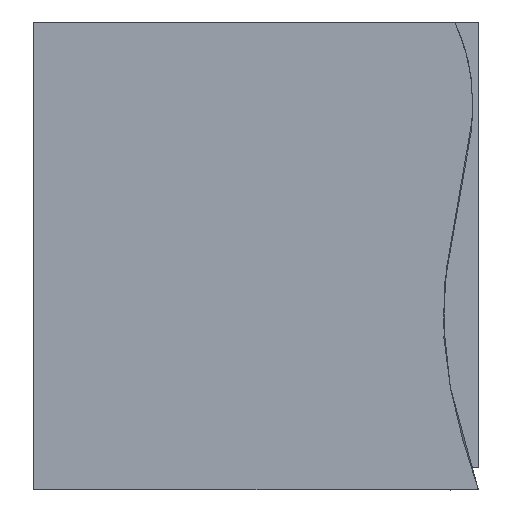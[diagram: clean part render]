
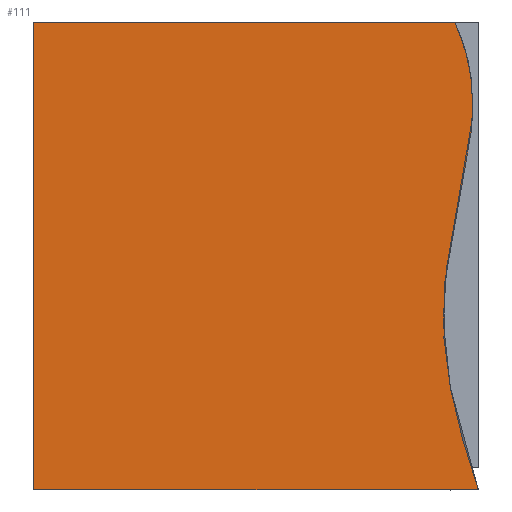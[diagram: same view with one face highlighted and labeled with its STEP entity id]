
A CAD part, front view. The second image highlights one B-rep face of the part: STEP entity #111.
In plain terms, the highlighted planar face has unit normal (0, 1, 0).
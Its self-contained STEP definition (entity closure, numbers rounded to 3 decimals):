
#12 = VECTOR ( 'NONE', #222, 1000. ) ;
#17 = CARTESIAN_POINT ( 'NONE',  ( 0., -100., 0. ) ) ;
#47 = CARTESIAN_POINT ( 'NONE',  ( 99.212, -100., -19.458 ) ) ;
#48 = EDGE_CURVE ( 'NONE', #119, #209, #252, .T. ) ;
#53 = CARTESIAN_POINT ( 'NONE',  ( 0., -100., 0. ) ) ;
#63 = EDGE_CURVE ( 'NONE', #209, #156, #67, .T. ) ;
#67 = B_SPLINE_CURVE_WITH_KNOTS ( 'NONE', 3,
 ( #132, #47, #104, #276, #201 ),
 .UNSPECIFIED., .F., .F.,
 ( 4, 1, 4 ),
 ( 0., 0.578, 1. ),
 .UNSPECIFIED. ) ;
#77 = DIRECTION ( 'NONE',  ( 0., 0., 1. ) ) ;
#88 = ORIENTED_EDGE ( 'NONE', *, *, #173, .T. ) ;
#104 = CARTESIAN_POINT ( 'NONE',  ( 81.496, -100., -52.279 ) ) ;
#111 = ADVANCED_FACE ( 'NONE', ( #231 ), #364, .F. ) ;
#119 = VERTEX_POINT ( 'NONE', #136 ) ;
#122 = ORIENTED_EDGE ( 'NONE', *, *, #272, .T. ) ;
#132 = CARTESIAN_POINT ( 'NONE',  ( 90., -100., 0. ) ) ;
#136 = CARTESIAN_POINT ( 'NONE',  ( 0., -100., 0. ) ) ;
#140 = LINE ( 'NONE', #53, #343 ) ;
#156 = VERTEX_POINT ( 'NONE', #226 ) ;
#159 = AXIS2_PLACEMENT_3D ( 'NONE', #256, #309, #208 ) ;
#163 = CARTESIAN_POINT ( 'NONE',  ( 0., -100., -100. ) ) ;
#173 = EDGE_CURVE ( 'NONE', #292, #119, #140, .T. ) ;
#194 = VECTOR ( 'NONE', #303, 1000. ) ;
#201 = CARTESIAN_POINT ( 'NONE',  ( 95., -100., -100. ) ) ;
#208 = DIRECTION ( 'NONE',  ( 0., 0., -1. ) ) ;
#209 = VERTEX_POINT ( 'NONE', #254 ) ;
#222 = DIRECTION ( 'NONE',  ( 1., 0., 0. ) ) ;
#226 = CARTESIAN_POINT ( 'NONE',  ( 95., -100., -100. ) ) ;
#231 = FACE_OUTER_BOUND ( 'NONE', #330, .T. ) ;
#247 = CARTESIAN_POINT ( 'NONE',  ( 0., -100., -100. ) ) ;
#252 = LINE ( 'NONE', #17, #12 ) ;
#254 = CARTESIAN_POINT ( 'NONE',  ( 90., -100., 0. ) ) ;
#256 = CARTESIAN_POINT ( 'NONE',  ( 0., -100., 0. ) ) ;
#272 = EDGE_CURVE ( 'NONE', #156, #292, #273, .T. ) ;
#273 = LINE ( 'NONE', #163, #194 ) ;
#276 = CARTESIAN_POINT ( 'NONE',  ( 90.446, -100., -86.639 ) ) ;
#292 = VERTEX_POINT ( 'NONE', #247 ) ;
#303 = DIRECTION ( 'NONE',  ( -1., 0., 0. ) ) ;
#309 = DIRECTION ( 'NONE',  ( 0., -1., 0. ) ) ;
#321 = ORIENTED_EDGE ( 'NONE', *, *, #48, .T. ) ;
#323 = ORIENTED_EDGE ( 'NONE', *, *, #63, .T. ) ;
#330 = EDGE_LOOP ( 'NONE', ( #321, #323, #122, #88 ) ) ;
#343 = VECTOR ( 'NONE', #77, 1000. ) ;
#364 = PLANE ( 'NONE',  #159 ) ;
